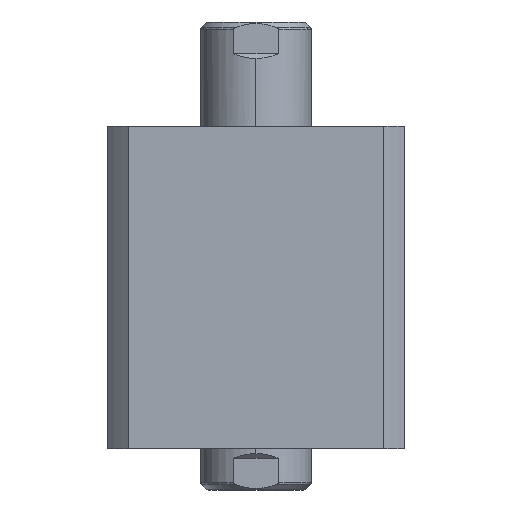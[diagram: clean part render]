
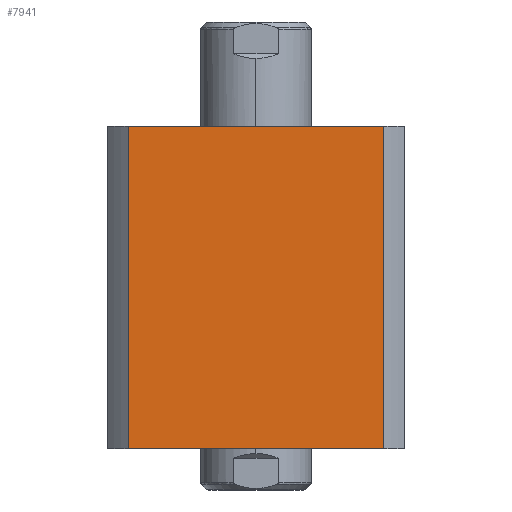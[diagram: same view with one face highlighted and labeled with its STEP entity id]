
A CAD part, left-side view. The second image highlights one B-rep face of the part: STEP entity #7941.
In plain terms, the highlighted planar face has unit normal (-1, 0, 0).
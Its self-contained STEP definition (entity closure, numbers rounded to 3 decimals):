
#524 = CARTESIAN_POINT ( 'NONE',  ( -47., 40.435, 300. ) ) ;
#576 = CARTESIAN_POINT ( 'NONE',  ( -47., 47., 102. ) ) ;
#1437 = VERTEX_POINT ( 'NONE', #4932 ) ;
#1938 = ORIENTED_EDGE ( 'NONE', *, *, #13281, .F. ) ;
#2000 = DIRECTION ( 'NONE',  ( 0., -1., 0. ) ) ;
#2395 = ORIENTED_EDGE ( 'NONE', *, *, #4839, .F. ) ;
#3316 = LINE ( 'NONE', #576, #4284 ) ;
#3339 = CARTESIAN_POINT ( 'NONE',  ( -47., 47., 102. ) ) ;
#4090 = VERTEX_POINT ( 'NONE', #5589 ) ;
#4184 = VECTOR ( 'NONE', #12202, 1000. ) ;
#4284 = VECTOR ( 'NONE', #2000, 1000. ) ;
#4802 = DIRECTION ( 'NONE',  ( 0., 1., 0. ) ) ;
#4839 = EDGE_CURVE ( 'NONE', #7073, #4090, #12270, .T. ) ;
#4907 = VECTOR ( 'NONE', #5586, 1000. ) ;
#4932 = CARTESIAN_POINT ( 'NONE',  ( -47., 40.435, 0. ) ) ;
#5354 = LINE ( 'NONE', #15626, #4907 ) ;
#5586 = DIRECTION ( 'NONE',  ( 0., -1., 0. ) ) ;
#5589 = CARTESIAN_POINT ( 'NONE',  ( -47., -40.435, 0. ) ) ;
#5637 = VECTOR ( 'NONE', #13373, 1000. ) ;
#6023 = AXIS2_PLACEMENT_3D ( 'NONE', #3339, #13388, #4802 ) ;
#6121 = PLANE ( 'NONE',  #6023 ) ;
#7073 = VERTEX_POINT ( 'NONE', #13726 ) ;
#7796 = FACE_OUTER_BOUND ( 'NONE', #11563, .T. ) ;
#7941 = ADVANCED_FACE ( 'NONE', ( #7796 ), #6121, .F. ) ;
#8823 = EDGE_CURVE ( 'NONE', #17184, #7073, #3316, .T. ) ;
#9487 = LINE ( 'NONE', #524, #5637 ) ;
#11563 = EDGE_LOOP ( 'NONE', ( #2395, #13338, #1938, #16699 ) ) ;
#12202 = DIRECTION ( 'NONE',  ( 0., 0., -1. ) ) ;
#12270 = LINE ( 'NONE', #15082, #4184 ) ;
#13281 = EDGE_CURVE ( 'NONE', #1437, #17184, #9487, .T. ) ;
#13338 = ORIENTED_EDGE ( 'NONE', *, *, #8823, .F. ) ;
#13373 = DIRECTION ( 'NONE',  ( 0., 0., 1. ) ) ;
#13388 = DIRECTION ( 'NONE',  ( 1., 0., 0. ) ) ;
#13726 = CARTESIAN_POINT ( 'NONE',  ( -47., -40.435, 102. ) ) ;
#15082 = CARTESIAN_POINT ( 'NONE',  ( -47., -40.435, 300. ) ) ;
#15626 = CARTESIAN_POINT ( 'NONE',  ( -47., 47., 0. ) ) ;
#16110 = EDGE_CURVE ( 'NONE', #1437, #4090, #5354, .T. ) ;
#16699 = ORIENTED_EDGE ( 'NONE', *, *, #16110, .T. ) ;
#17184 = VERTEX_POINT ( 'NONE', #18444 ) ;
#18444 = CARTESIAN_POINT ( 'NONE',  ( -47., 40.435, 102. ) ) ;
